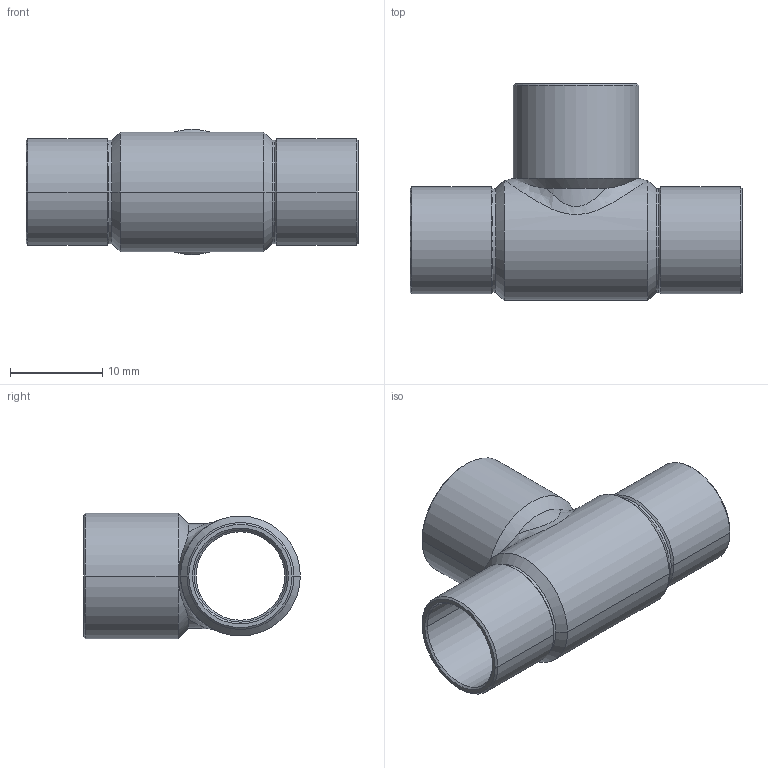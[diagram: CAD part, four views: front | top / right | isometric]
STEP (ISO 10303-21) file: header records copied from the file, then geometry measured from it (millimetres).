
FILE_DESCRIPTION((''),'2;1');
FILE_NAME('P:\Bouwmaten\z-maattekeningen 3D\5000\5130\5130101210.stp','2005-10-26T11:52:16',('Kris'),(''),'Autodesk Inventor 8','Autodesk Inventor 8','');
FILE_SCHEMA(('AUTOMOTIVE_DESIGN { 1 0 10303 214 1 1 1 1 }'));
Length unit declared in the file: millimetre
Products named in the file (1): 5130101210
Bounding box: 36 x 23.5 x 13.6 mm (x, y, z)
Volume: 1350.9 mm3; surface area: 3463.8 mm2
Topology: 1 solids, 1 shells, 69 faces, 152 edges, 84 vertices
Faces by surface type: cone 28, cylinder 24, bspline 14, plane 3
Entity records: 2682 total; most frequent: CARTESIAN_POINT 1195, DIRECTION 308, ORIENTED_EDGE 304, EDGE_CURVE 152, AXIS2_PLACEMENT_3D 125, VERTEX_POINT 84, EDGE_LOOP 72, CIRCLE 69
